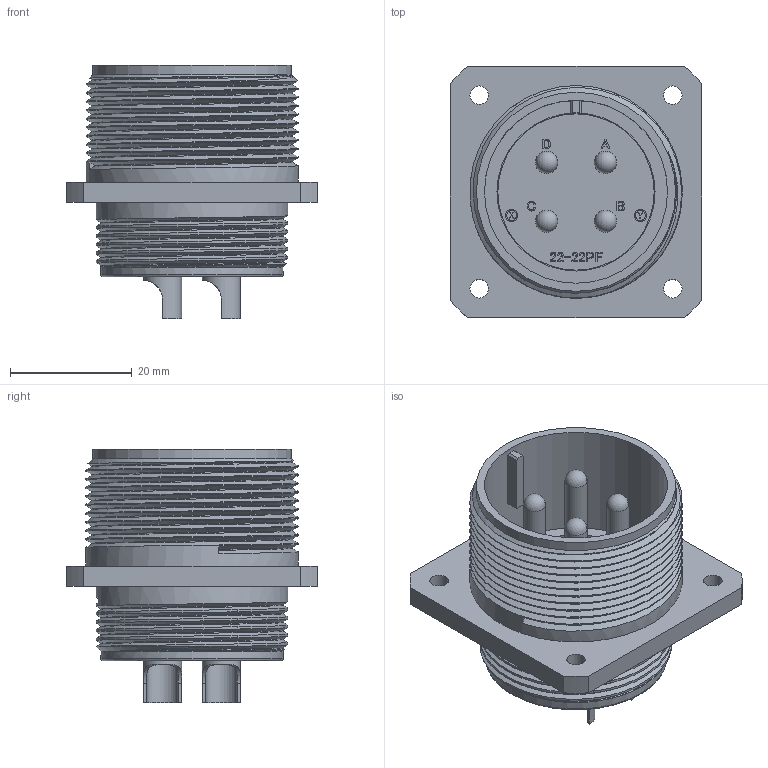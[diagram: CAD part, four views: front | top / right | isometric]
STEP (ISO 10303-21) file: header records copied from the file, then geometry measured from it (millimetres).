
FILE_DESCRIPTION (( 'STEP AP203' ), '1' );
FILE_NAME ('DMS3100A22-22P(D263).STEP', '2022-02-10T07:32:58', ( '' ), ( '' ), 'SwSTEP 2.0', 'SolidWorks 2018', '' );
FILE_SCHEMA (( 'CONFIG_CONTROL_DESIGN' ));
Length unit declared in the file: millimetre
Products named in the file (1): DMS3100A22-22P(D263)
Bounding box: 41.27 x 41.27 x 41.66 mm (x, y, z)
Volume: 17412.4 mm3; surface area: 13744.8 mm2
Topology: 1 solids, 1 shells, 579 faces, 1556 edges, 1031 vertices
Faces by surface type: plane 272, bspline 222, cylinder 74, torus 5, sphere 4, cone 2
Full cylindrical faces by diameter (mm): 1.6 x2, 2 x2, 3.05 x4, 3.63 x4, 5.21 x4, 6.25 x4, 23.16 x1, 25.65 x1, 25.94 x1, 27.43 x1, 29.9 x1, 30.03 x1, 31.49 x5, 32.68 x1, 34.88 x10
Entity records: 26885 total; most frequent: CARTESIAN_POINT 14530, ORIENTED_EDGE 2888, DIRECTION 1772, EDGE_CURVE 1444, VERTEX_POINT 974, LINE 866, VECTOR 866, EDGE_LOOP 664
